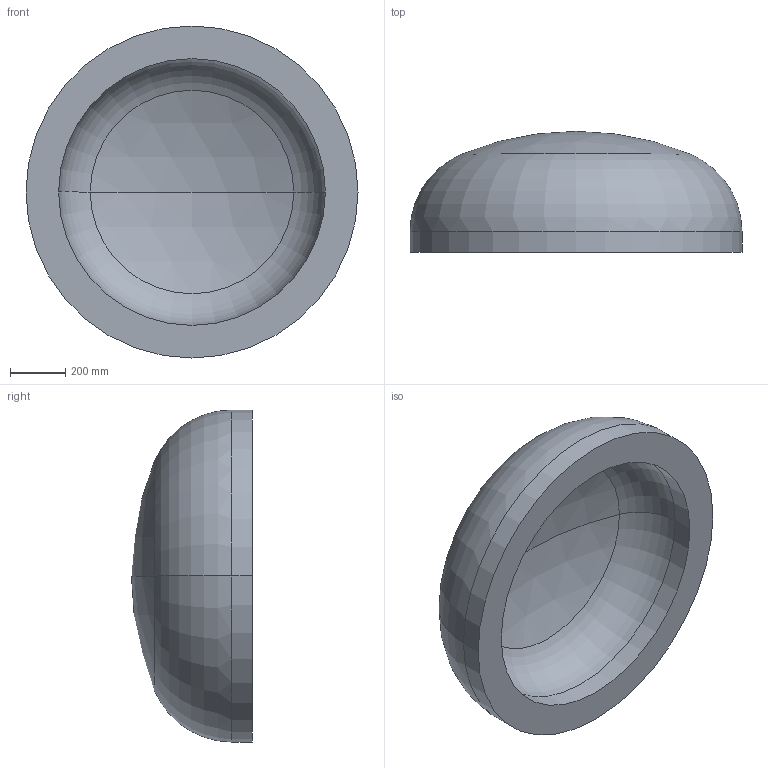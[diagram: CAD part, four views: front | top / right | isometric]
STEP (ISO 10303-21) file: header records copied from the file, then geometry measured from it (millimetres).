
FILE_DESCRIPTION (( 'STEP AP203' ), '1' );
FILE_NAME ('DIN 28013 Korbbogenform_-_Boden DIN 28013 - 1200 x 75 - I - s=118.step', '2016-07-01T09:40:09', ( '' ), ( '' ), 'SwSTEP 2.0', 'SolidWorks 2013', '' );
FILE_SCHEMA (( 'CONFIG_CONTROL_DESIGN' ));
Length unit declared in the file: millimetre
Products named in the file (1): DIN 28013 Korbbogenform_-_Boden DIN 28013 - 1200 x 75 - I - s=118
Bounding box: 1200 x 437.17 x 1200 mm (x, y, z)
Volume: 193755536 mm3; surface area: 3714259.9 mm2
Topology: 1 solids, 1 shells, 13 faces, 24 edges, 14 vertices
Faces by surface type: torus 4, cylinder 4, sphere 4, plane 1
Entity records: 407 total; most frequent: DIRECTION 72, CARTESIAN_POINT 52, ORIENTED_EDGE 48, AXIS2_PLACEMENT_3D 34, EDGE_CURVE 24, CIRCLE 20, VERTEX_POINT 14, EDGE_LOOP 14
